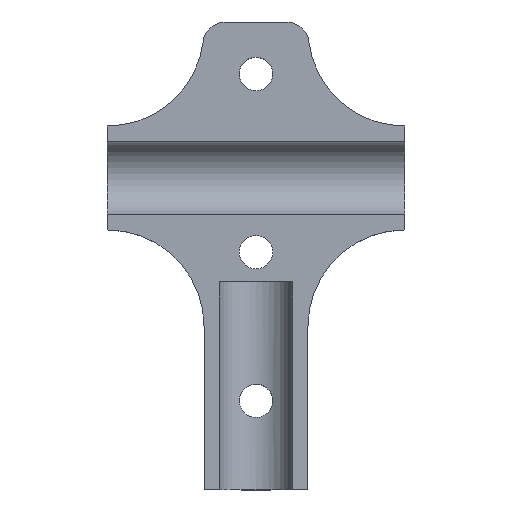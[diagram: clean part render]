
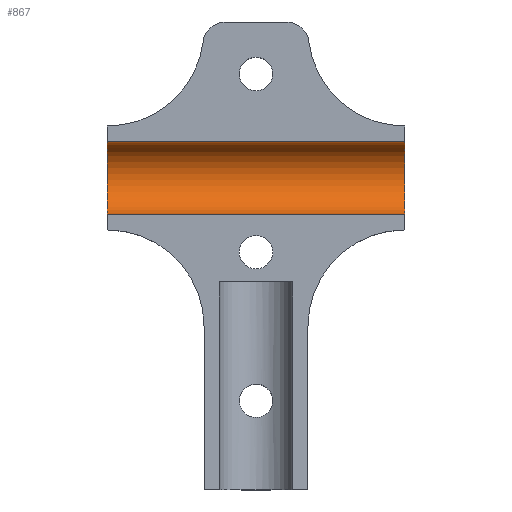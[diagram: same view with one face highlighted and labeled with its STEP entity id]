
A CAD part, top view. The second image highlights one B-rep face of the part: STEP entity #867.
In plain terms, the highlighted cylindrical face has radius 4.95 mm (diameter 9.9 mm), a partial arc.
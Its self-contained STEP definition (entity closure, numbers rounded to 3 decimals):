
#761=CARTESIAN_POINT('',(20.0,11.925,8.5));
#762=VERTEX_POINT('',#761);
#763=CARTESIAN_POINT('',(-20.0,11.925,8.5));
#764=VERTEX_POINT('',#763);
#765=CARTESIAN_POINT('',(20.0,11.925,8.5));
#766=DIRECTION('',(-1.0,0.0,0.0));
#767=VECTOR('',#766,40.0);
#768=LINE('',#765,#767);
#769=EDGE_CURVE('',#762,#764,#768,.T.);
#835=CARTESIAN_POINT('',(20.0,7.0,9.0));
#836=DIRECTION('',(-1.0,0.0,0.0));
#837=DIRECTION('',(0.0,0.0,1.0));
#838=AXIS2_PLACEMENT_3D('',#835,#836,#837);
#839=CYLINDRICAL_SURFACE('',#838,4.95);
#840=ORIENTED_EDGE('',*,*,#769,.T.);
#841=CARTESIAN_POINT('',(-20.0,2.05,9.0));
#842=VERTEX_POINT('',#841);
#843=CARTESIAN_POINT('',(-20.0,7.0,9.0));
#844=DIRECTION('',(1.0,0.0,0.0));
#845=DIRECTION('',(0.0,0.0,1.0));
#846=AXIS2_PLACEMENT_3D('',#843,#844,#845);
#847=CIRCLE('',#846,4.95);
#848=EDGE_CURVE('',#842,#764,#847,.T.);
#849=ORIENTED_EDGE('',*,*,#848,.F.);
#850=CARTESIAN_POINT('',(20.0,2.05,9.0));
#851=VERTEX_POINT('',#850);
#852=CARTESIAN_POINT('',(20.0,2.05,9.0));
#853=DIRECTION('',(-1.0,0.0,0.0));
#854=VECTOR('',#853,40.0);
#855=LINE('',#852,#854);
#856=EDGE_CURVE('',#851,#842,#855,.T.);
#857=ORIENTED_EDGE('',*,*,#856,.F.);
#858=CARTESIAN_POINT('',(20.0,7.0,9.0));
#859=DIRECTION('',(-1.0,0.0,0.0));
#860=DIRECTION('',(0.0,0.0,1.0));
#861=AXIS2_PLACEMENT_3D('',#858,#859,#860);
#862=CIRCLE('',#861,4.95);
#863=EDGE_CURVE('',#762,#851,#862,.T.);
#864=ORIENTED_EDGE('',*,*,#863,.F.);
#865=EDGE_LOOP('',(#840,#849,#857,#864));
#866=FACE_OUTER_BOUND('',#865,.T.);
#867=ADVANCED_FACE('',(#866),#839,.F.);
